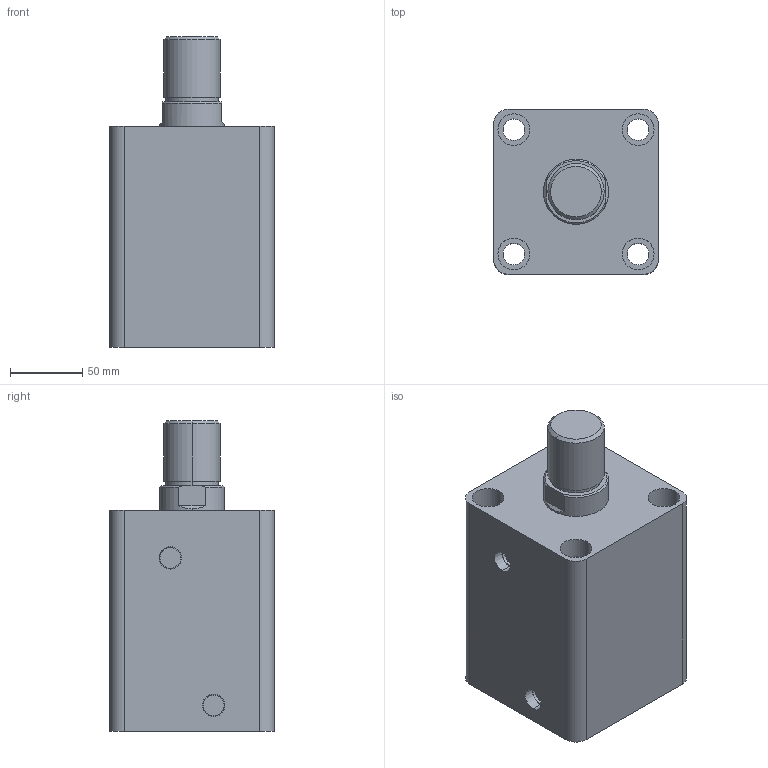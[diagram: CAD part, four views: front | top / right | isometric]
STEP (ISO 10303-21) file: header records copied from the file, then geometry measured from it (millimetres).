
FILE_DESCRIPTION (( 'STEP AP203' ), '1' );
FILE_NAME ('HTB-SD80-75W.STEP', '2019-10-07T08:34:57', ( '微软用户' ), ( '微软中国' ), 'SwSTEP 2.0', 'SolidWorks 2012', '' );
FILE_SCHEMA (( 'CONFIG_CONTROL_DESIGN' ));
Length unit declared in the file: millimetre
Products named in the file (3): HTB-SD80-75W; HTB-SD80-75W活塞杆; HTB-SD80-75掛极
Assembly tree (2 placements, depth 2):
  HTB-SD80-75W
    HTB-SD80-75掛极
    HTB-SD80-75W活塞杆
Bounding box: 114 x 114 x 215 mm (x, y, z)
Volume: 1660536 mm3; surface area: 202682.4 mm2
Topology: 2 solids, 2 shells, 87 faces, 190 edges, 124 vertices
Faces by surface type: cylinder 44, plane 29, cone 8, torus 6
Entity records: 2761 total; most frequent: DIRECTION 478, CARTESIAN_POINT 434, ORIENTED_EDGE 380, AXIS2_PLACEMENT_3D 204, EDGE_CURVE 190, VERTEX_POINT 124, EDGE_LOOP 112, CIRCLE 112
